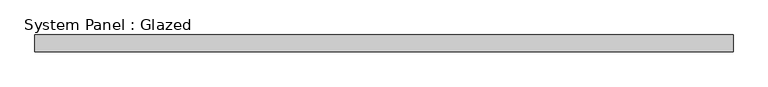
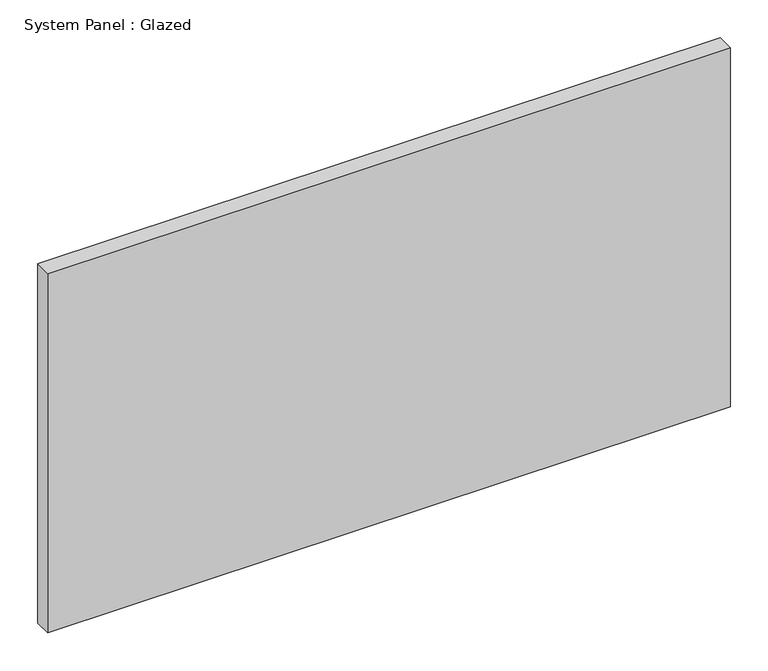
"""IFC4 building model written with IfcOpenShell, lengths in millimetres: plate geometry, System Panel : Glazed."""

import ifcopenshell
import ifcopenshell.guid

model = None  # the IFC model being written
_history = None  # IfcOwnerHistory: only IFC2X3 demands one
_inside = {}  # id of a spatial element -> (the spatial element, [elements in it])
_under = {}  # id of a project, library or spatial element -> (it, [spatial elements below it])
_declared = {}  # id of a project -> (the project, [libraries it declares])
_typed = {}  # id of a type object -> (the type object, [elements of that type])
_made_of = {}  # id of a material, layer set ... -> (it, [elements and type objects made of it])


def new_model(schema):
    """Start an empty IFC model of exactly this schema.

    Asked for "IFC4X3", IfcOpenShell would pick the latest addendum, in which some entities
    have other attributes; the version numbers below select the first issue.
    IFC2X3 requires an IfcOwnerHistory on every rooted entity: one is made here for all.
    """
    global model, _history
    if schema == "IFC4X3":
        model = ifcopenshell.file(schema_version=(4, 3, 0, 0))
    else:
        model = ifcopenshell.file(schema=schema)
    _inside.clear()
    _under.clear()
    _declared.clear()
    _typed.clear()
    _made_of.clear()
    _history = None
    if model.schema == "IFC2X3":
        org = make("IfcOrganization", Name="unknown")
        user = make(
            "IfcPersonAndOrganization",
            ThePerson=make("IfcPerson", FamilyName="unknown"),
            TheOrganization=org,
        )
        app = make(
            "IfcApplication",
            ApplicationDeveloper=org,
            Version="unknown",
            ApplicationFullName="unknown",
            ApplicationIdentifier="unknown",
        )
        _history = make(
            "IfcOwnerHistory",
            OwningUser=user,
            OwningApplication=app,
            ChangeAction="ADDED",
            CreationDate=0,
        )
    return model


def make(cls, **values):
    """One entity of the class cls with the attributes given. An attribute that is None is left unset."""
    return model.create_entity(
        cls, **{name: value for name, value in values.items() if value is not None}
    )


def rooted(cls, **values):
    """An entity with a GlobalId (a new one), such as an element, a storey or a relation."""
    return make(cls, GlobalId=ifcopenshell.guid.new(), OwnerHistory=_history, **values)


def si_unit(unit_type, name, prefix=None):
    """IfcSIUnit, for example si_unit("LENGTHUNIT", "METRE", prefix="MILLI")."""
    return make("IfcSIUnit", UnitType=unit_type, Prefix=prefix, Name=name)


def assignment(units):
    """IfcUnitAssignment: the units of a project."""
    return None if units is None else make("IfcUnitAssignment", Units=units)


def point(xyz):
    """IfcCartesianPoint."""
    return None if xyz is None else make("IfcCartesianPoint", Coordinates=xyz)


def direction(xyz):
    """IfcDirection."""
    return None if xyz is None else make("IfcDirection", DirectionRatios=xyz)


def frame(location, z_axis=None, x_axis=None):
    """IfcAxis2Placement3D, a coordinate frame: its origin and axes. An axis left out is left unset."""
    return make(
        "IfcAxis2Placement3D",
        Location=point(location),
        Axis=direction(z_axis),
        RefDirection=direction(x_axis),
    )


def origin():
    """The frame at (0, 0, 0) with its axes left unset."""
    return frame((0.0, 0.0, 0.0))


def origin_with_axes():
    """The frame at (0, 0, 0) with the z axis (0, 0, 1) and the x axis (1, 0, 0) written out."""
    return frame((0.0, 0.0, 0.0), z_axis=(0.0, 0.0, 1.0), x_axis=(1.0, 0.0, 0.0))


def place(relative_to, where):
    """IfcLocalPlacement: puts the frame where relative to a parent placement (None: the world)."""
    return make(
        "IfcLocalPlacement", PlacementRelTo=relative_to, RelativePlacement=where
    )


def context(
    kind, dimensions, precision=None, world=None, true_north=None, identifier=None
):
    """IfcGeometricRepresentationContext, for example the 3D "Model" context."""
    return make(
        "IfcGeometricRepresentationContext",
        ContextIdentifier=identifier,
        ContextType=kind,
        CoordinateSpaceDimension=dimensions,
        Precision=precision,
        WorldCoordinateSystem=world,
        TrueNorth=true_north,
    )


def project(units=None, contexts=None):
    """IfcProject with its units and contexts."""
    return rooted(
        "IfcProject",
        Name="project",
        RepresentationContexts=contexts,
        UnitsInContext=assignment(units),
    )


def spatial(cls, under=None, at=None, **own):
    """A site, building, storey or space (cls), placed at a placement, below another one or the project."""
    s = rooted(cls, ObjectPlacement=at, **own)
    if under is not None:
        _under.setdefault(under.id(), (under, []))[1].append(s)
    return s


def polyline(points):
    """IfcPolyline through the points."""
    return make("IfcPolyline", Points=[point(p) for p in points])


def outline(outer, holes=None, kind="AREA"):
    """IfcArbitraryClosedProfileDef: a profile drawn as a closed curve; with holes, ...WithVoids."""
    if holes is None:
        return make("IfcArbitraryClosedProfileDef", ProfileType=kind, OuterCurve=outer)
    return make(
        "IfcArbitraryProfileDefWithVoids",
        ProfileType=kind,
        OuterCurve=outer,
        InnerCurves=holes,
    )


def extrude(swept, where, along, depth):
    """IfcExtrudedAreaSolid: the profile swept, set in the frame where, extruded along a direction by depth."""
    return make(
        "IfcExtrudedAreaSolid",
        SweptArea=swept,
        Position=where,
        ExtrudedDirection=direction(along),
        Depth=depth,
    )


def shape(context_of_items, identifier, shape_type, items):
    """IfcShapeRepresentation: the items that make up one representation, for example the "Body"."""
    return make(
        "IfcShapeRepresentation",
        ContextOfItems=context_of_items,
        RepresentationIdentifier=identifier,
        RepresentationType=shape_type,
        Items=items,
    )


def source(mapping_origin, context_of_items, identifier, shape_type, items):
    """IfcRepresentationMap: a shape defined once, which mapped items show again and again."""
    return make(
        "IfcRepresentationMap",
        MappingOrigin=mapping_origin,
        MappedRepresentation=shape(context_of_items, identifier, shape_type, items),
    )


def transform(
    local_origin,
    x_axis=None,
    y_axis=None,
    z_axis=None,
    scale=None,
    scale2=None,
    scale3=None,
    uniform=True,
):
    """IfcCartesianTransformationOperator3D, or its non-uniform kind. x_axis, y_axis, z_axis: its Axis1, 2, 3."""
    if uniform:
        return make(
            "IfcCartesianTransformationOperator3D",
            Axis1=direction(x_axis),
            Axis2=direction(y_axis),
            LocalOrigin=point(local_origin),
            Scale=scale,
            Axis3=direction(z_axis),
        )
    return make(
        "IfcCartesianTransformationOperator3DnonUniform",
        Axis1=direction(x_axis),
        Axis2=direction(y_axis),
        LocalOrigin=point(local_origin),
        Scale=scale,
        Axis3=direction(z_axis),
        Scale2=scale2,
        Scale3=scale3,
    )


def mapped(mapping_source, mapping_target):
    """IfcMappedItem: shows the shape of a source again, moved by a transform."""
    return make(
        "IfcMappedItem", MappingSource=mapping_source, MappingTarget=mapping_target
    )


def made_of(thing, what):
    """Note that an element or type object is made of a material, layer set ...; save() writes the relation."""
    if what is not None:
        _made_of.setdefault(what.id(), (what, []))[1].append(thing)
    return thing


def element(
    cls,
    number,
    at=None,
    inside=None,
    cuts=None,
    type_object=None,
    material=None,
    context=None,
    identifier="Body",
    shape_type=None,
    held_by="IfcProductDefinitionShape",
    body=None,
    shapes=None,
    **own,
):
    """One element of the class cls, such as IfcWall. Its Tag is "e" and its number.

    at: its placement. inside: the storey or other place that contains it. cuts: it is an
    opening in that element (IfcRelVoidsElement). A single representation is given by context,
    identifier, shape_type and body (its items); several are given by shapes. held_by: the class
    of the entity that holds the representations. save() writes the other relations.
    """
    e = rooted(cls, Tag="e%d" % number, ObjectPlacement=at, **own)
    if body is not None:
        shapes = [shape(context, identifier, shape_type, body)]
    if shapes is not None:
        e.Representation = make(held_by, Representations=shapes)
    if inside is not None:
        _inside.setdefault(inside.id(), (inside, []))[1].append(e)
    if cuts is not None:
        rooted(
            "IfcRelVoidsElement", RelatingBuildingElement=cuts, RelatedOpeningElement=e
        )
    if type_object is not None:
        _typed.setdefault(type_object.id(), (type_object, []))[1].append(e)
    return made_of(e, material)


def aggregate(whole, parts):
    """IfcRelAggregates: a whole, such as a stair, and the parts it consists of."""
    return rooted("IfcRelAggregates", RelatingObject=whole, RelatedObjects=parts)


def save(model, path):
    """Write the relations noted so far, then the file.

    IfcRelAggregates (storeys below a building ...), IfcRelContainedInSpatialStructure (elements
    in a storey), IfcRelDefinesByType, IfcRelAssociatesMaterial and IfcRelDeclares: one each for
    every whole, place, type object, material and project.
    """
    for whole, parts in _under.values():
        aggregate(whole, parts)
    for where, things in _inside.values():
        rooted(
            "IfcRelContainedInSpatialStructure",
            RelatedElements=things,
            RelatingStructure=where,
        )
    for kind, things in _typed.values():
        rooted("IfcRelDefinesByType", RelatedObjects=things, RelatingType=kind)
    for what, things in _made_of.values():
        rooted("IfcRelAssociatesMaterial", RelatedObjects=things, RelatingMaterial=what)
    for by, libraries in _declared.values():
        rooted("IfcRelDeclares", RelatingContext=by, RelatedDefinitions=libraries)
    model.write(path)


def system_panel_glazed_cc9c3ac5(model_context):
    return source(origin(), model_context, "Body", "SweptSolid", [
        extrude(outline(polyline([(519.3392857, 19.05), (-519.3392857, 19.05), (-519.3392857, 44.45), (519.3392857, 44.45), (519.3392857, 19.05)])), origin_with_axes(), (0.0, 0.0, 1.0), 577.85),
    ])


if __name__ == "__main__":
    model = new_model("IFC4")
    model_context = context("Model", 3, world=origin())
    ifc_project = project(units=[si_unit("LENGTHUNIT", "METRE", prefix="MILLI")], contexts=[model_context])
    site = spatial("IfcSite", under=ifc_project)
    building = spatial("IfcBuilding", under=site)
    placement = place(None, origin())
    system_panel_glazed_shape = system_panel_glazed_cc9c3ac5(model_context)
    element("IfcPlate", 1, ObjectType="System Panel : Glazed", at=placement, inside=building, context=model_context, shape_type="MappedRepresentation", body=[
        mapped(system_panel_glazed_shape, transform((0.0, 0.0, 0.0), x_axis=(1.0, 0.0, 0.0), y_axis=(0.0, 1.0, 0.0), z_axis=(0.0, 0.0, 1.0))),
    ])
    save(model, "model.ifc")
